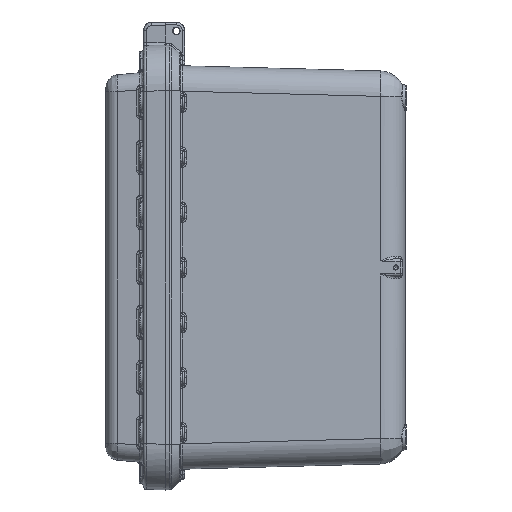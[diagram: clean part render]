
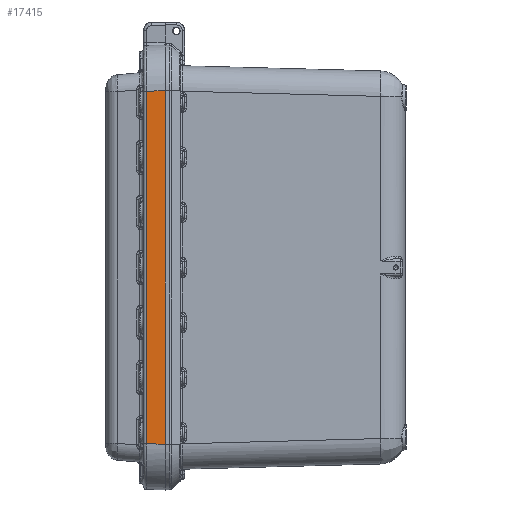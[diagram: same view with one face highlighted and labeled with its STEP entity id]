
A CAD part, left-side view. The second image highlights one B-rep face of the part: STEP entity #17415.
In plain terms, the highlighted planar face has unit normal (-1, 0.026, 0) as drawn and (1, -0.026, 0) by its records, which use the part's own axes.
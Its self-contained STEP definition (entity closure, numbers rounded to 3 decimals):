
#17415=ADVANCED_FACE('',(#63302),#63304,.T.);
#63302=FACE_BOUND('',#63303,.T.);
#63303=EDGE_LOOP('',(#96646,#96647,#96648,#96649));
#63304=PLANE('',#63305);
#63305=AXIS2_PLACEMENT_3D('',#63306,#63307,#63308);
#63306=CARTESIAN_POINT('',(361.819,-26.,261.819));
#63307=DIRECTION('',(1.,-0.026,0.));
#63308=DIRECTION('',(0.,0.,-1.));
#96646=ORIENTED_EDGE('',*,*,#106011,.T.);
#96647=ORIENTED_EDGE('',*,*,#106260,.F.);
#96648=ORIENTED_EDGE('',*,*,#106261,.T.);
#96649=ORIENTED_EDGE('',*,*,#106262,.T.);
#106011=EDGE_CURVE('',#116145,#116143,#116146,.T.);
#106260=EDGE_CURVE('',#116623,#116143,#116625,.T.);
#106261=EDGE_CURVE('',#116623,#116626,#116627,.T.);
#106262=EDGE_CURVE('',#116626,#116145,#116628,.T.);
#116143=VERTEX_POINT('',#173627);
#116145=VERTEX_POINT('',#173632);
#116146=LINE('',#173633,#173634);
#116623=VERTEX_POINT('',#175107);
#116625=LINE('',#175204,#175205);
#116626=VERTEX_POINT('',#175207);
#116627=LINE('',#175208,#175209);
#116628=LINE('',#175211,#175212);
#173627=CARTESIAN_POINT('',(362.5,0.,208.519));
#173632=CARTESIAN_POINT('',(362.5,0.,-208.519));
#173633=CARTESIAN_POINT('',(362.5,0.,-208.519));
#173634=VECTOR('',#173635,1.);
#173635=DIRECTION('',(0.,0.,1.));
#175107=CARTESIAN_POINT('',(361.921,-22.105,207.94));
#175204=CARTESIAN_POINT('',(361.921,-22.105,207.94));
#175205=VECTOR('',#175206,1.);
#175206=DIRECTION('',(0.026,0.999,0.026));
#175207=CARTESIAN_POINT('',(361.921,-22.105,-207.94));
#175208=CARTESIAN_POINT('',(361.921,-22.105,207.94));
#175209=VECTOR('',#175210,1.);
#175210=DIRECTION('',(0.,0.,-1.));
#175211=CARTESIAN_POINT('',(361.921,-22.105,-207.94));
#175212=VECTOR('',#175213,1.);
#175213=DIRECTION('',(0.026,0.999,-0.026));
